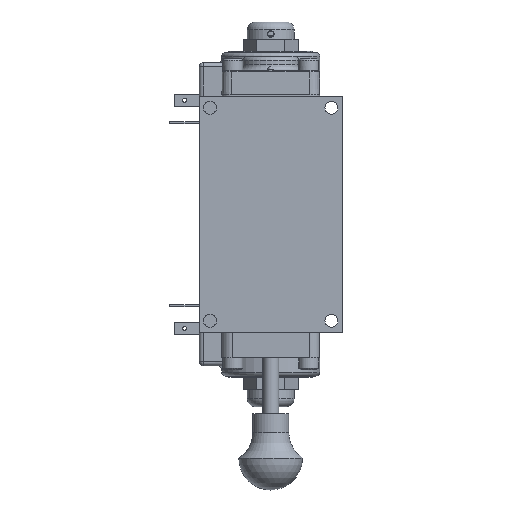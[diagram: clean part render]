
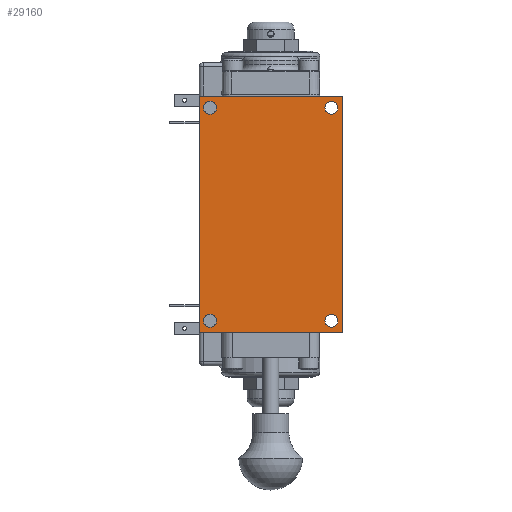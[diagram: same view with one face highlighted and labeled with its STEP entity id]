
A CAD part, front view. The second image highlights one B-rep face of the part: STEP entity #29160.
In plain terms, the highlighted planar face has unit normal (0, -1, 0).
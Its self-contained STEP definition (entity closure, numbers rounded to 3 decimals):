
#431=FACE_BOUND('',#3965,.T.);
#432=FACE_BOUND('',#3966,.T.);
#433=FACE_BOUND('',#3967,.T.);
#434=FACE_BOUND('',#3968,.T.);
#929=PLANE('',#31208);
#2197=FACE_OUTER_BOUND('',#3964,.T.);
#3964=EDGE_LOOP('',(#21012,#21013,#21014,#21015));
#3965=EDGE_LOOP('',(#21016));
#3966=EDGE_LOOP('',(#21017));
#3967=EDGE_LOOP('',(#21018));
#3968=EDGE_LOOP('',(#21019));
#6849=LINE('',#46711,#8976);
#6850=LINE('',#46713,#8977);
#6851=LINE('',#46715,#8978);
#6852=LINE('',#46716,#8979);
#8976=VECTOR('',#35723,1.);
#8977=VECTOR('',#35724,1.);
#8978=VECTOR('',#35725,1.);
#8979=VECTOR('',#35726,1.);
#10625=CIRCLE('',#31209,0.258);
#10626=CIRCLE('',#31210,0.258);
#10627=CIRCLE('',#31211,0.258);
#10628=CIRCLE('',#31212,0.258);
#12508=VERTEX_POINT('',#46709);
#12509=VERTEX_POINT('',#46710);
#12510=VERTEX_POINT('',#46712);
#12511=VERTEX_POINT('',#46714);
#12512=VERTEX_POINT('',#46717);
#12513=VERTEX_POINT('',#46719);
#12514=VERTEX_POINT('',#46721);
#12515=VERTEX_POINT('',#46723);
#15674=EDGE_CURVE('',#12508,#12509,#6849,.T.);
#15675=EDGE_CURVE('',#12510,#12508,#6850,.T.);
#15676=EDGE_CURVE('',#12511,#12510,#6851,.T.);
#15677=EDGE_CURVE('',#12509,#12511,#6852,.T.);
#15678=EDGE_CURVE('',#12512,#12512,#10625,.T.);
#15679=EDGE_CURVE('',#12513,#12513,#10626,.T.);
#15680=EDGE_CURVE('',#12514,#12514,#10627,.T.);
#15681=EDGE_CURVE('',#12515,#12515,#10628,.T.);
#21012=ORIENTED_EDGE('',*,*,#15674,.F.);
#21013=ORIENTED_EDGE('',*,*,#15675,.F.);
#21014=ORIENTED_EDGE('',*,*,#15676,.F.);
#21015=ORIENTED_EDGE('',*,*,#15677,.F.);
#21016=ORIENTED_EDGE('',*,*,#15678,.T.);
#21017=ORIENTED_EDGE('',*,*,#15679,.T.);
#21018=ORIENTED_EDGE('',*,*,#15680,.T.);
#21019=ORIENTED_EDGE('',*,*,#15681,.T.);
#29160=ADVANCED_FACE('',(#2197,#431,#432,#433,#434),#929,.F.);
#31208=AXIS2_PLACEMENT_3D('',#46708,#35721,#35722);
#31209=AXIS2_PLACEMENT_3D('',#46718,#35727,#35728);
#31210=AXIS2_PLACEMENT_3D('',#46720,#35729,#35730);
#31211=AXIS2_PLACEMENT_3D('',#46722,#35731,#35732);
#31212=AXIS2_PLACEMENT_3D('',#46724,#35733,#35734);
#35721=DIRECTION('center_axis',(0.,1.,0.));
#35722=DIRECTION('ref_axis',(0.,0.,1.));
#35723=DIRECTION('',(0.,0.,1.));
#35724=DIRECTION('',(-1.,0.,0.));
#35725=DIRECTION('',(0.,0.,-1.));
#35726=DIRECTION('',(1.,0.,0.));
#35727=DIRECTION('center_axis',(0.,1.,0.));
#35728=DIRECTION('ref_axis',(-1.,0.,0.));
#35729=DIRECTION('center_axis',(0.,1.,0.));
#35730=DIRECTION('ref_axis',(-1.,0.,0.));
#35731=DIRECTION('center_axis',(0.,1.,0.));
#35732=DIRECTION('ref_axis',(-1.,0.,0.));
#35733=DIRECTION('center_axis',(0.,1.,0.));
#35734=DIRECTION('ref_axis',(-1.,0.,0.));
#46708=CARTESIAN_POINT('Origin',(0.,-1.636,0.));
#46709=CARTESIAN_POINT('',(-2.858,-1.636,-4.71));
#46710=CARTESIAN_POINT('',(-2.858,-1.636,4.71));
#46711=CARTESIAN_POINT('',(-2.858,-1.636,-4.71));
#46712=CARTESIAN_POINT('',(2.858,-1.636,-4.71));
#46713=CARTESIAN_POINT('',(2.858,-1.636,-4.71));
#46714=CARTESIAN_POINT('',(2.858,-1.636,4.71));
#46715=CARTESIAN_POINT('',(2.858,-1.636,4.71));
#46716=CARTESIAN_POINT('',(-2.858,-1.636,4.71));
#46717=CARTESIAN_POINT('',(-2.163,-1.636,-4.247));
#46718=CARTESIAN_POINT('Origin',(-2.421,-1.636,-4.247));
#46719=CARTESIAN_POINT('',(-2.163,-1.636,4.247));
#46720=CARTESIAN_POINT('Origin',(-2.421,-1.636,4.247));
#46721=CARTESIAN_POINT('',(2.678,-1.636,-4.247));
#46722=CARTESIAN_POINT('Origin',(2.421,-1.636,-4.247));
#46723=CARTESIAN_POINT('',(2.678,-1.636,4.247));
#46724=CARTESIAN_POINT('Origin',(2.421,-1.636,4.247));
